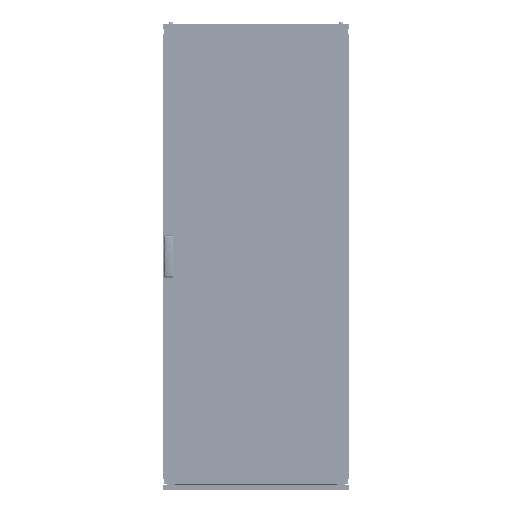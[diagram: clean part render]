
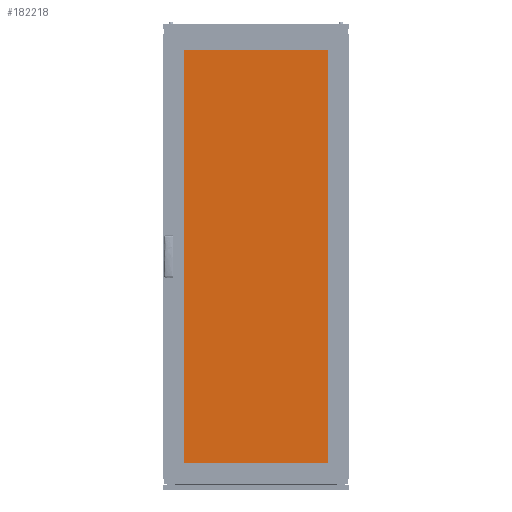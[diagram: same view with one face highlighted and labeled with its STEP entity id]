
A CAD part, top view. The second image highlights one B-rep face of the part: STEP entity #182218.
In plain terms, the highlighted planar face has unit normal (0, 0, 1).
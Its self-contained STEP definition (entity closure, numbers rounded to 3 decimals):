
#16014 = EDGE_CURVE ( 'NONE', #220439, #69504, #210859, .T. ) ;
#23907 = EDGE_CURVE ( 'NONE', #70754, #221195, #209857, .T. ) ;
#29999 = ORIENTED_EDGE ( 'NONE', *, *, #16014, .T. ) ;
#35176 = DIRECTION ( 'NONE',  ( -1., 0., 0. ) ) ;
#35861 = PLANE ( 'NONE',  #193974 ) ;
#45175 = EDGE_LOOP ( 'NONE', ( #171776, #204766, #111673, #29999 ) ) ;
#49419 = CARTESIAN_POINT ( 'NONE',  ( -330., -910., 5. ) ) ;
#50635 = DIRECTION ( 'NONE',  ( 0., 1., 0. ) ) ;
#51810 = CARTESIAN_POINT ( 'NONE',  ( 0., 0., 5. ) ) ;
#65674 = VECTOR ( 'NONE', #197042, 1000. ) ;
#66668 = DIRECTION ( 'NONE',  ( 0., 0., -1. ) ) ;
#68882 = CARTESIAN_POINT ( 'NONE',  ( 330., -910., 5. ) ) ;
#69504 = VERTEX_POINT ( 'NONE', #125640 ) ;
#70754 = VERTEX_POINT ( 'NONE', #81916 ) ;
#71521 = VECTOR ( 'NONE', #35176, 1000. ) ;
#81916 = CARTESIAN_POINT ( 'NONE',  ( 330., 910., 5. ) ) ;
#87222 = FACE_OUTER_BOUND ( 'NONE', #45175, .T. ) ;
#90035 = CARTESIAN_POINT ( 'NONE',  ( -330., -910., 5. ) ) ;
#105328 = DIRECTION ( 'NONE',  ( 0., -1., 0. ) ) ;
#111673 = ORIENTED_EDGE ( 'NONE', *, *, #207513, .T. ) ;
#125640 = CARTESIAN_POINT ( 'NONE',  ( 330., -910., 5. ) ) ;
#156893 = DIRECTION ( 'NONE',  ( -1., 0., 0. ) ) ;
#162801 = CARTESIAN_POINT ( 'NONE',  ( -330., -910., 5. ) ) ;
#171776 = ORIENTED_EDGE ( 'NONE', *, *, #185421, .T. ) ;
#172743 = LINE ( 'NONE', #49419, #221435 ) ;
#182218 = ADVANCED_FACE ( 'NONE', ( #87222 ), #35861, .F. ) ;
#185421 = EDGE_CURVE ( 'NONE', #69504, #70754, #208232, .T. ) ;
#193974 = AXIS2_PLACEMENT_3D ( 'NONE', #51810, #66668, #156893 ) ;
#197042 = DIRECTION ( 'NONE',  ( 1., 0., 0. ) ) ;
#202128 = CARTESIAN_POINT ( 'NONE',  ( -330., 910., 5. ) ) ;
#204766 = ORIENTED_EDGE ( 'NONE', *, *, #23907, .T. ) ;
#207513 = EDGE_CURVE ( 'NONE', #221195, #220439, #172743, .T. ) ;
#208232 = LINE ( 'NONE', #68882, #220740 ) ;
#209857 = LINE ( 'NONE', #211000, #71521 ) ;
#210859 = LINE ( 'NONE', #162801, #65674 ) ;
#211000 = CARTESIAN_POINT ( 'NONE',  ( -330., 910., 5. ) ) ;
#220439 = VERTEX_POINT ( 'NONE', #90035 ) ;
#220740 = VECTOR ( 'NONE', #50635, 1000. ) ;
#221195 = VERTEX_POINT ( 'NONE', #202128 ) ;
#221435 = VECTOR ( 'NONE', #105328, 1000. ) ;
